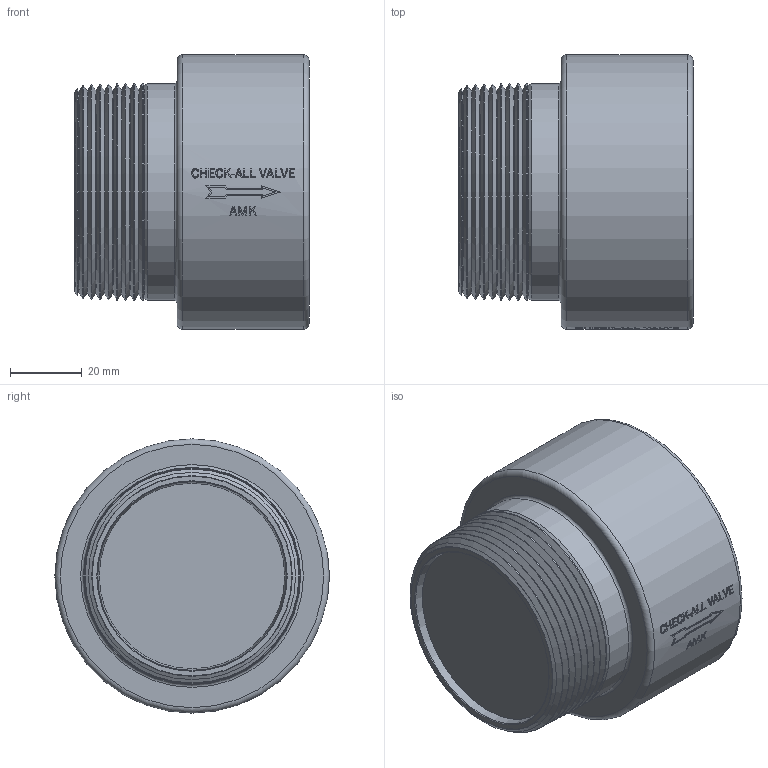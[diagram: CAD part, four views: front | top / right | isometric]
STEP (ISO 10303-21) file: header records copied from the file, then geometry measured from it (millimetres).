
FILE_DESCRIPTION(/* description */ ('Unknown'),/* implementation_level */ '2;1');
FILE_NAME(/* name */ 'AMKXXOR.500XX-WEB',/* time_stamp */ '2022-10-03T08:58:47-05:00',/* author */ ('Unknown'),/* organization */ ('Unknown'),/* preprocessor_version */ 'ST-DEVELOPER v18.102',/* originating_system */ 'Solid Edge',/* authorisation */ 'Unknown');
FILE_SCHEMA (('AUTOMOTIVE_DESIGN {1 0 10303 214 3 1 1}'));
Length unit declared in the file: inch
Products named in the file (1): AMKXXOR.500XX-WEB
Bounding box: 65.02 x 76.2 x 76.2 mm (x, y, z)
Volume: 208011.8 mm3; surface area: 34267.9 mm2
Topology: 1 solids, 2 shells, 288 faces, 724 edges, 464 vertices
Faces by surface type: plane 170, cone 64, cylinder 42, torus 7, bspline 4, sphere 1
Full cylindrical faces by diameter (mm): 35.179 x1, 41.275 x1, 48.057 x1, 56.365 x7, 60.325 x3, 76.2 x1
Entity records: 11048 total; most frequent: CARTESIAN_POINT 2908, ORIENTED_EDGE 1226, DIRECTION 1142, EDGE_CURVE 613, AXIS2_PLACEMENT_3D 462, VERTEX_POINT 439, EDGE_LOOP 400, FACE_BOUND 400
